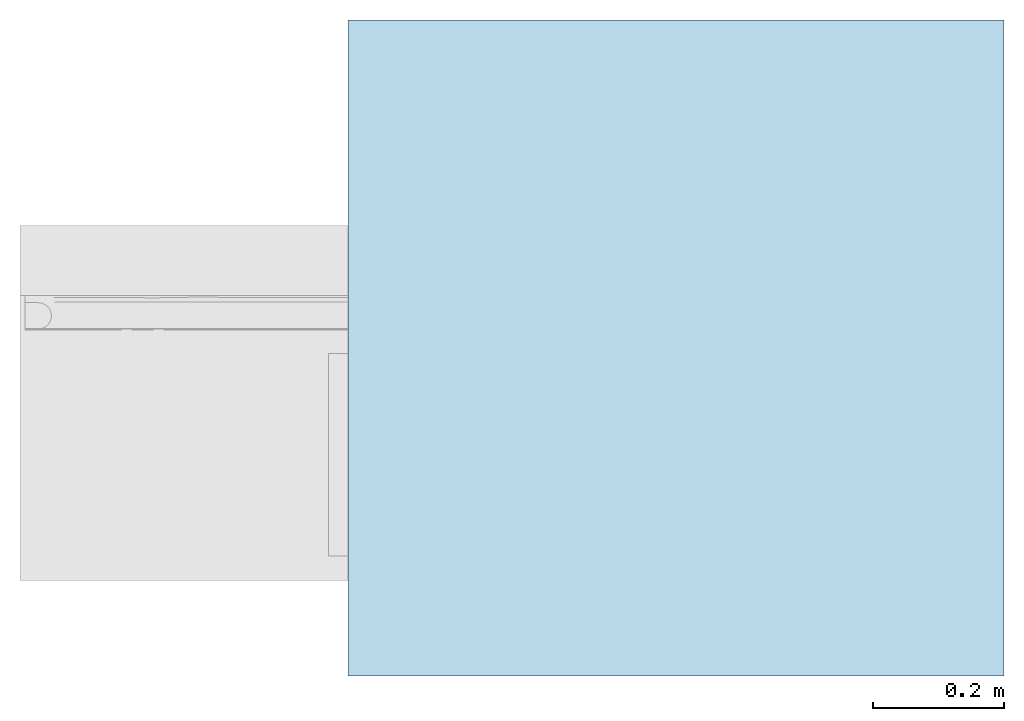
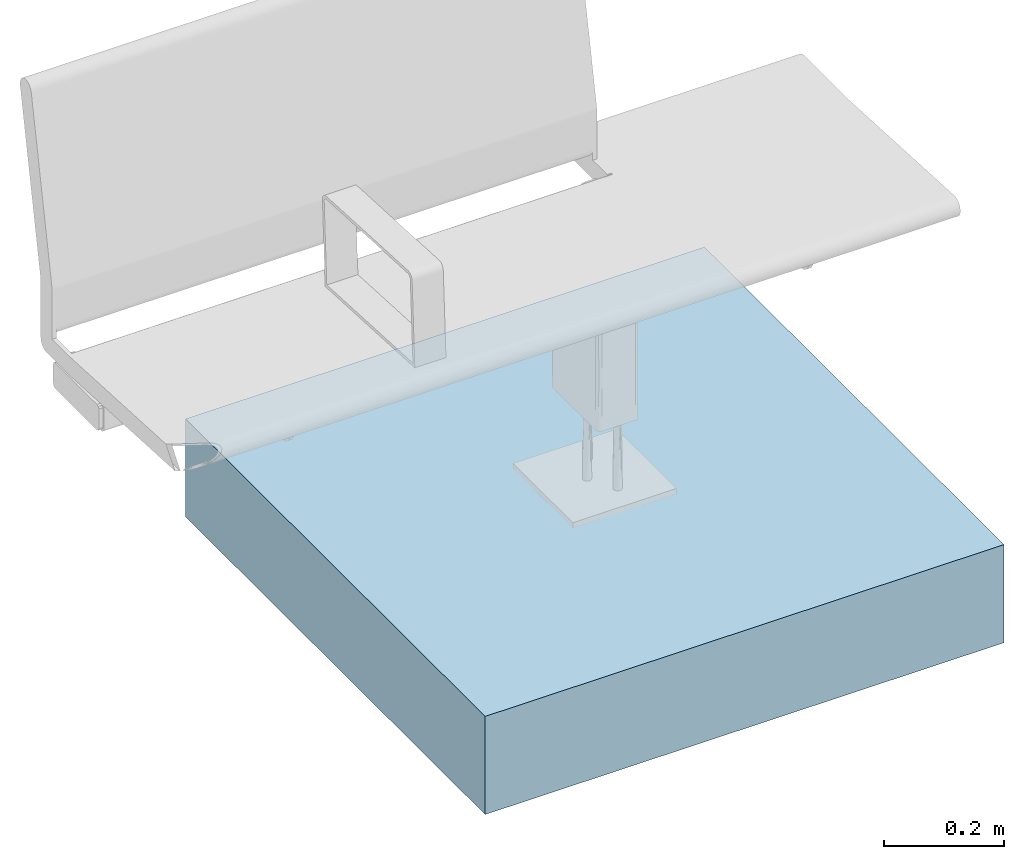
# One storey, incomplete: 1 slab.
"""IFC4 building model written with IfcOpenShell, lengths in metres."""

import ifcopenshell
import ifcopenshell.guid

model = None  # the IFC model being written
_history = None  # IfcOwnerHistory: only IFC2X3 demands one
_inside = {}  # id of a spatial element -> (the spatial element, [elements in it])
_under = {}  # id of a project, library or spatial element -> (it, [spatial elements below it])
_declared = {}  # id of a project -> (the project, [libraries it declares])
_typed = {}  # id of a type object -> (the type object, [elements of that type])
_made_of = {}  # id of a material, layer set ... -> (it, [elements and type objects made of it])


def new_model(schema):
    """Start an empty IFC model of exactly this schema.

    Asked for "IFC4X3", IfcOpenShell would pick the latest addendum, in which some entities
    have other attributes; the version numbers below select the first issue.
    IFC2X3 requires an IfcOwnerHistory on every rooted entity: one is made here for all.
    """
    global model, _history
    if schema == "IFC4X3":
        model = ifcopenshell.file(schema_version=(4, 3, 0, 0))
    else:
        model = ifcopenshell.file(schema=schema)
    _inside.clear()
    _under.clear()
    _declared.clear()
    _typed.clear()
    _made_of.clear()
    _history = None
    if model.schema == "IFC2X3":
        org = make("IfcOrganization", Name="unknown")
        user = make(
            "IfcPersonAndOrganization",
            ThePerson=make("IfcPerson", FamilyName="unknown"),
            TheOrganization=org,
        )
        app = make(
            "IfcApplication",
            ApplicationDeveloper=org,
            Version="unknown",
            ApplicationFullName="unknown",
            ApplicationIdentifier="unknown",
        )
        _history = make(
            "IfcOwnerHistory",
            OwningUser=user,
            OwningApplication=app,
            ChangeAction="ADDED",
            CreationDate=0,
        )
    return model


def make(cls, **values):
    """One entity of the class cls with the attributes given. An attribute that is None is left unset."""
    return model.create_entity(
        cls, **{name: value for name, value in values.items() if value is not None}
    )


def entity(cls, *values):
    """Any entity or typed value of the class cls, its attributes in the order of the schema. None: left unset."""
    e = model.create_entity(cls)
    for i, value in enumerate(values):
        if value is not None:
            e[i] = value
    return e


def rooted(cls, **values):
    """An entity with a GlobalId (a new one), such as an element, a storey or a relation."""
    return make(cls, GlobalId=ifcopenshell.guid.new(), OwnerHistory=_history, **values)


def si_unit(unit_type, name, prefix=None):
    """IfcSIUnit, for example si_unit("LENGTHUNIT", "METRE", prefix="MILLI")."""
    return make("IfcSIUnit", UnitType=unit_type, Prefix=prefix, Name=name)


def converted_unit(unit_type, name, factor, base, dimensions=None, offset=None):
    """IfcConversionBasedUnit, such as the inch: factor (a typed value) times the base unit."""
    return make(
        "IfcConversionBasedUnit"
        if offset is None
        else "IfcConversionBasedUnitWithOffset",
        ConversionOffset=offset,
        Dimensions=None
        if dimensions is None
        else entity("IfcDimensionalExponents", *dimensions),
        UnitType=unit_type,
        Name=name,
        ConversionFactor=make(
            "IfcMeasureWithUnit", ValueComponent=factor, UnitComponent=base
        ),
    )


def assignment(units):
    """IfcUnitAssignment: the units of a project."""
    return None if units is None else make("IfcUnitAssignment", Units=units)


def point(xyz):
    """IfcCartesianPoint."""
    return None if xyz is None else make("IfcCartesianPoint", Coordinates=xyz)


def direction(xyz):
    """IfcDirection."""
    return None if xyz is None else make("IfcDirection", DirectionRatios=xyz)


def frame(location, z_axis=None, x_axis=None):
    """IfcAxis2Placement3D, a coordinate frame: its origin and axes. An axis left out is left unset."""
    return make(
        "IfcAxis2Placement3D",
        Location=point(location),
        Axis=direction(z_axis),
        RefDirection=direction(x_axis),
    )


def frame_2d(location, x_axis=None):
    """IfcAxis2Placement2D, a coordinate frame in the plane: its origin and x axis."""
    return make(
        "IfcAxis2Placement2D", Location=point(location), RefDirection=direction(x_axis)
    )


def origin():
    """The frame at (0, 0, 0) with its axes left unset."""
    return frame((0.0, 0.0, 0.0))


def origin_2d_with_axis():
    """The frame at (0, 0) in the plane with the x axis (1, 0) written out."""
    return frame_2d((0.0, 0.0), x_axis=(1.0, 0.0))


def place(relative_to, where):
    """IfcLocalPlacement: puts the frame where relative to a parent placement (None: the world)."""
    return make(
        "IfcLocalPlacement", PlacementRelTo=relative_to, RelativePlacement=where
    )


def context(
    kind, dimensions, precision=None, world=None, true_north=None, identifier=None
):
    """IfcGeometricRepresentationContext, for example the 3D "Model" context."""
    return make(
        "IfcGeometricRepresentationContext",
        ContextIdentifier=identifier,
        ContextType=kind,
        CoordinateSpaceDimension=dimensions,
        Precision=precision,
        WorldCoordinateSystem=world,
        TrueNorth=true_north,
    )


def subcontext(parent, identifier, kind, view, scale=None):
    """IfcGeometricRepresentationSubContext, for example "Body" below "Model"."""
    return make(
        "IfcGeometricRepresentationSubContext",
        ContextIdentifier=identifier,
        ContextType=kind,
        ParentContext=parent,
        TargetScale=scale,
        TargetView=view,
    )


def project(units=None, contexts=None):
    """IfcProject with its units and contexts."""
    return rooted(
        "IfcProject",
        Name="project",
        RepresentationContexts=contexts,
        UnitsInContext=assignment(units),
    )


def spatial(cls, under=None, at=None, **own):
    """A site, building, storey or space (cls), placed at a placement, below another one or the project."""
    s = rooted(cls, ObjectPlacement=at, **own)
    if under is not None:
        _under.setdefault(under.id(), (under, []))[1].append(s)
    return s


def profile(cls, at=None, kind="AREA", **sizes):
    """A parametric profile (cls). Its sizes go by their IFC names, for example OverallWidth=200.0."""
    return make(cls, ProfileType=kind, Position=at, **sizes)


def rectangle(**sizes):
    """IfcRectangleProfileDef."""
    return profile("IfcRectangleProfileDef", **sizes)


def extrude(swept, where, along, depth):
    """IfcExtrudedAreaSolid: the profile swept, set in the frame where, extruded along a direction by depth."""
    return make(
        "IfcExtrudedAreaSolid",
        SweptArea=swept,
        Position=where,
        ExtrudedDirection=direction(along),
        Depth=depth,
    )


def shape(context_of_items, identifier, shape_type, items):
    """IfcShapeRepresentation: the items that make up one representation, for example the "Body"."""
    return make(
        "IfcShapeRepresentation",
        ContextOfItems=context_of_items,
        RepresentationIdentifier=identifier,
        RepresentationType=shape_type,
        Items=items,
    )


def material(Name=None, Category=None):
    """IfcMaterial."""
    return make("IfcMaterial", Name=Name, Category=Category)


def made_of(thing, what):
    """Note that an element or type object is made of a material, layer set ...; save() writes the relation."""
    if what is not None:
        _made_of.setdefault(what.id(), (what, []))[1].append(thing)
    return thing


def type_object(cls, material=None, **own):
    """A type object (cls), such as IfcWallType, which elements share."""
    return made_of(rooted(cls, **own), material)


def element(
    cls,
    number,
    at=None,
    inside=None,
    cuts=None,
    type_object=None,
    material=None,
    context=None,
    identifier="Body",
    shape_type=None,
    held_by="IfcProductDefinitionShape",
    body=None,
    shapes=None,
    **own,
):
    """One element of the class cls, such as IfcWall. Its Tag is "e" and its number.

    at: its placement. inside: the storey or other place that contains it. cuts: it is an
    opening in that element (IfcRelVoidsElement). A single representation is given by context,
    identifier, shape_type and body (its items); several are given by shapes. held_by: the class
    of the entity that holds the representations. save() writes the other relations.
    """
    e = rooted(cls, Tag="e%d" % number, ObjectPlacement=at, **own)
    if body is not None:
        shapes = [shape(context, identifier, shape_type, body)]
    if shapes is not None:
        e.Representation = make(held_by, Representations=shapes)
    if inside is not None:
        _inside.setdefault(inside.id(), (inside, []))[1].append(e)
    if cuts is not None:
        rooted(
            "IfcRelVoidsElement", RelatingBuildingElement=cuts, RelatedOpeningElement=e
        )
    if type_object is not None:
        _typed.setdefault(type_object.id(), (type_object, []))[1].append(e)
    return made_of(e, material)


def aggregate(whole, parts):
    """IfcRelAggregates: a whole, such as a stair, and the parts it consists of."""
    return rooted("IfcRelAggregates", RelatingObject=whole, RelatedObjects=parts)


def save(model, path):
    """Write the relations noted so far, then the file.

    IfcRelAggregates (storeys below a building ...), IfcRelContainedInSpatialStructure (elements
    in a storey), IfcRelDefinesByType, IfcRelAssociatesMaterial and IfcRelDeclares: one each for
    every whole, place, type object, material and project.
    """
    for whole, parts in _under.values():
        aggregate(whole, parts)
    for where, things in _inside.values():
        rooted(
            "IfcRelContainedInSpatialStructure",
            RelatedElements=things,
            RelatingStructure=where,
        )
    for kind, things in _typed.values():
        rooted("IfcRelDefinesByType", RelatedObjects=things, RelatingType=kind)
    for what, things in _made_of.values():
        rooted("IfcRelAssociatesMaterial", RelatedObjects=things, RelatingMaterial=what)
    for by, libraries in _declared.values():
        rooted("IfcRelDeclares", RelatingContext=by, RelatedDefinitions=libraries)
    model.write(path)


model = new_model("IFC4")

# Units and contexts
model_context = context("Model", 3, precision=1e-05, world=origin(), true_north=direction((6.123031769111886e-17, 1.0)))
body_context = subcontext(model_context, "Body", "Model", "MODEL_VIEW")
ifc_project = project(units=[si_unit("LENGTHUNIT", "METRE"), converted_unit("PLANEANGLEUNIT", "DEGREE", entity("IfcPlaneAngleMeasure", 0.017453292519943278), si_unit("PLANEANGLEUNIT", "RADIAN"), dimensions=[0, 0, 0, 0, 0, 0, 0]), si_unit("AREAUNIT", "SQUARE_METRE")], contexts=[model_context])

# Site, building, storey
site_placement = place(None, origin())
site = spatial("IfcSite", under=ifc_project, at=site_placement, Name="Default", CompositionType="ELEMENT")
building_placement = place(site_placement, origin())
building = spatial("IfcBuilding", under=site, at=building_placement, CompositionType="ELEMENT")
storey_placement = place(building_placement, origin())
storey = spatial("IfcBuildingStorey", under=building, at=storey_placement, Name="Ebene 0", CompositionType="ELEMENT", Elevation=0.0)

# Slab
ifc_material = material(Name="DB_Fertigbeton", Category="DB_Beton")
slab_type = type_object("IfcSlabType", Name="DB_Calidum_light_Fundament:DB_Calidum_light_Fundament", PredefinedType="BASESLAB", material=ifc_material)
slab_placement = place(storey_placement, origin())
element("IfcSlab", 1, at=slab_placement, inside=storey, type_object=slab_type, Name="DB_Calidum_light_Fundament:DB_Calidum_light_Fundament", ObjectType="DB_Calidum_light_Fundament:DB_Calidum_light_Fundament", PredefinedType="BASESLAB", context=body_context, shape_type="SweptSolid", body=[
    extrude(rectangle(XDim=0.9999999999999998, YDim=0.9999999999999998, at=origin_2d_with_axis()), frame((1.0, 0.0, -0.36199999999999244), z_axis=(0.0, 0.0, 1.0), x_axis=(0.0, 1.0, 0.0)), (0.0, 0.0, 1.0), 0.2),
])

save(model, "model.ifc")
